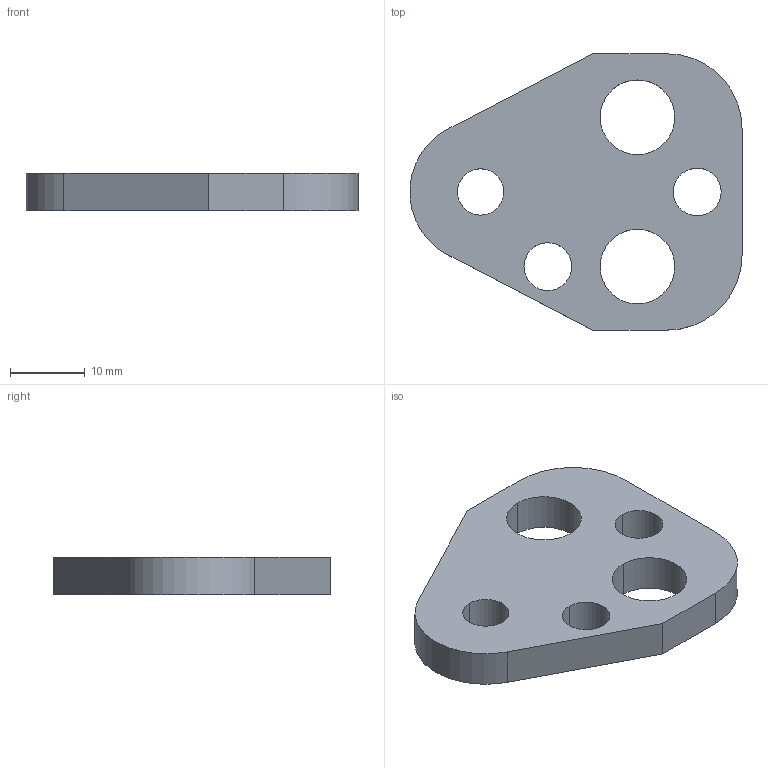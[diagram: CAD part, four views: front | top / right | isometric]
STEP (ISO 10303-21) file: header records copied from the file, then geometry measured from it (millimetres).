
FILE_DESCRIPTION(/* description */ (''),/* implementation_level */ '2;1');
FILE_NAME(/* name */ '3d_bpc10_03413_r00.stp',/* time_stamp */ '2011-01-10T14:17:11+09:00',/* author */ ('MISUMI'),/* organization */ (''),/* preprocessor_version */ 'ST-DEVELOPER v11',/* originating_system */ 'UGS - NX 5.0',/* authorisation */ '');
FILE_SCHEMA (('CONFIG_CONTROL_DESIGN'));
Length unit declared in the file: millimetre
Products named in the file (1): 3d_bpc10_03413_r00
Bounding box: 44.47 x 37 x 5 mm (x, y, z)
Volume: 5144.8 mm3; surface area: 3334.7 mm2
Topology: 1 solids, 1 shells, 20 faces, 54 edges, 36 vertices
Faces by surface type: cylinder 13, plane 7
Entity records: 750 total; most frequent: DIRECTION 122, CARTESIAN_POINT 111, ORIENTED_EDGE 108, EDGE_CURVE 54, AXIS2_PLACEMENT_3D 47, VERTEX_POINT 36, EDGE_LOOP 30, LINE 28
